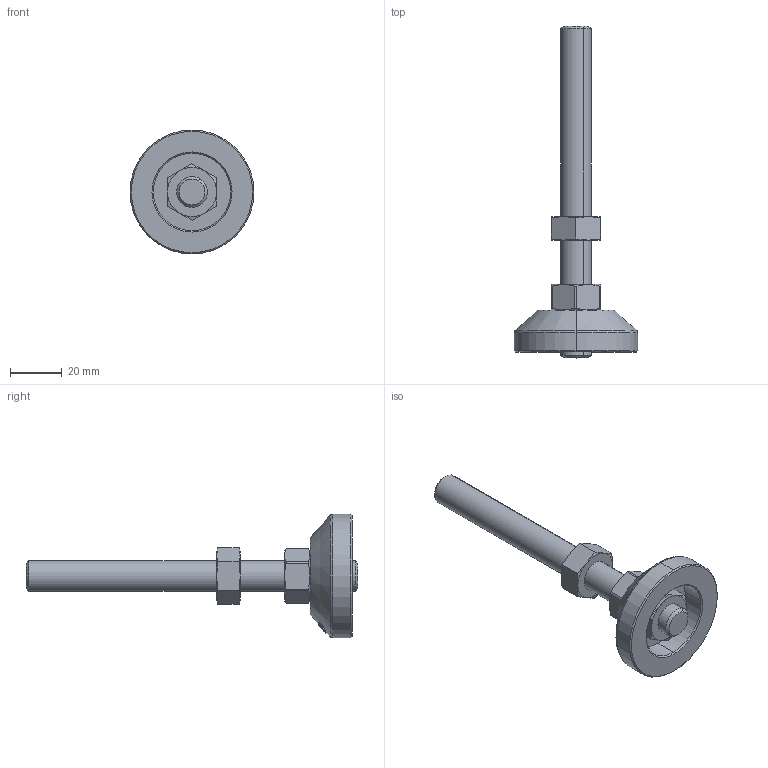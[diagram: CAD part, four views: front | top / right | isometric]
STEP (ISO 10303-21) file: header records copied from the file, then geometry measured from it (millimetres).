
FILE_DESCRIPTION (( 'STEP AP203' ), '1' );
FILE_NAME ('M-50-12100-S.STEP', '2020-09-10T06:56:38', ( '' ), ( '' ), 'SwSTEP 2.0', 'SolidWorks 2016', '' );
FILE_SCHEMA (( 'CONFIG_CONTROL_DESIGN' ));
Length unit declared in the file: millimetre
Products named in the file (5): 脚垫锁紧六角薄螺母M12; M-50-1褐菜; 脚垫调节六角螺母M12; 不锈钢双头螺栓M12系列_M12X100; M-50-12100-S
Assembly tree (4 placements, depth 2):
  M-50-12100-S
    M-50-1褐菜
    不锈钢双头螺栓M12系列_M12X100
    脚垫锁紧六角薄螺母M12
    脚垫调节六角螺母M12
Bounding box: 48 x 128.5 x 48 mm (x, y, z)
Volume: 36916.1 mm3; surface area: 13955.3 mm2
Topology: 4 solids, 4 shells, 150 faces, 354 edges, 220 vertices
Faces by surface type: cone 63, bspline 38, plane 29, cylinder 20
Entity records: 8000 total; most frequent: CARTESIAN_POINT 4432, ORIENTED_EDGE 708, DIRECTION 502, EDGE_CURVE 354, VERTEX_POINT 220, AXIS2_PLACEMENT_3D 215, B_SPLINE_CURVE_WITH_KNOTS 186, EDGE_LOOP 164
